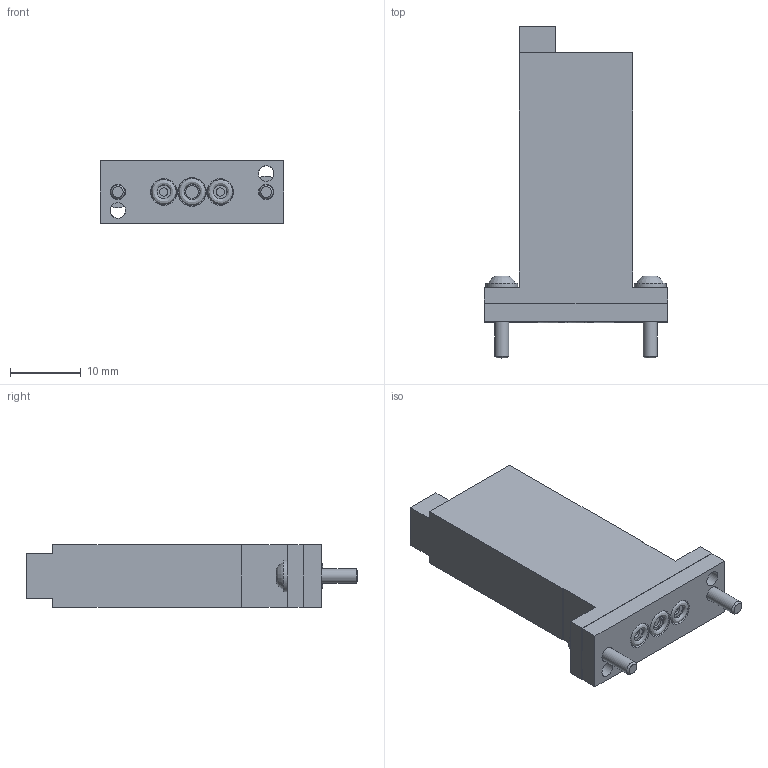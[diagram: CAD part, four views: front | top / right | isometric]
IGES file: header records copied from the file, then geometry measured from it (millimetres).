
Start section: Data from Parasolid IGES Translator 26.0.171, Copyright(c) 2006 Siemens PLM Software. All Rights Reserved.
Global section: file name: 6724-20027694-Bevorzugt-PEEK-medium-2_2-_und_3_2-Wege_Wippen-Ma_106547dbf191860f.igs; native system: By Siemens PLM Incorporated; preprocessor: XPlus GENERIC/IGES 26.0.171; author: Noname; organization: Noname; date: 20240816.140720; units: millimetre
Bounding box: 26 x 47 x 8.9 mm (x, y, z)
Surface area: 2987.8 mm2 (no closed solid volume)
Topology: 0 solids, 0 shells, 88 faces, 386 edges, 357 vertices
Faces by surface type: extrusion 64, revolution 24
